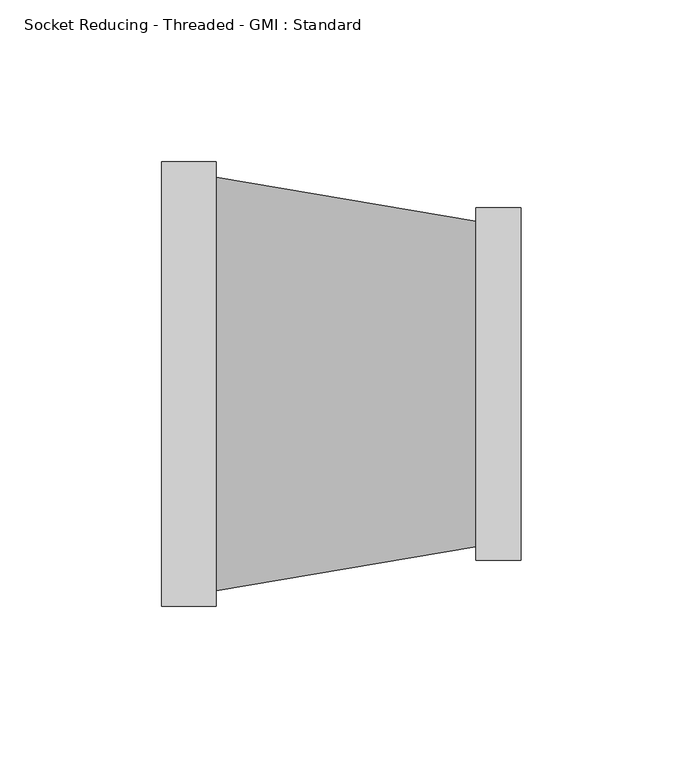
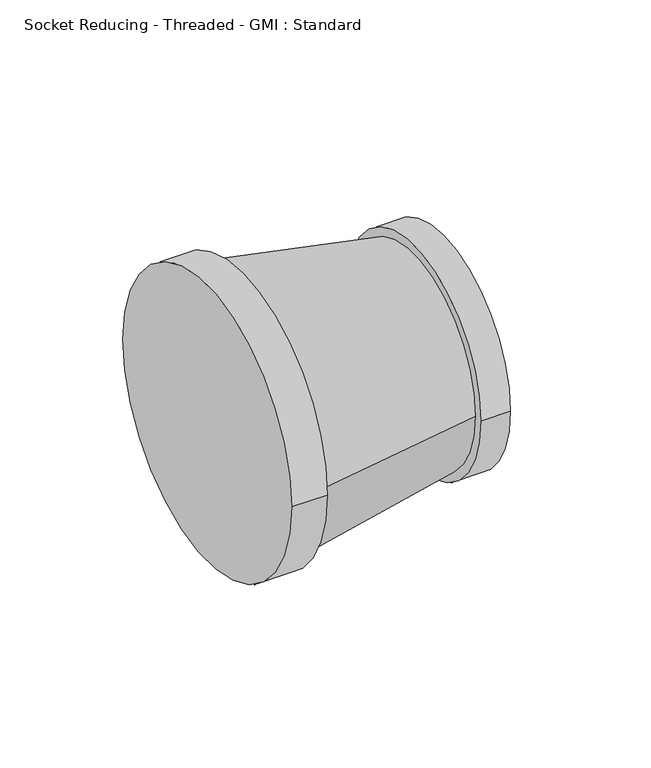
"""IFC4 building model written with IfcOpenShell, lengths in millimetres: pipe fitting geometry, Socket Reducing - Threaded - GMI : Standard."""

from ifc_helpers import new_model, si_unit, point, frame, origin, origin_2d, place, context, project, spatial, polyline, circle_curve, trimmed, segment, composite_curve, outline, extrude, source, transform, mapped, element, save
from ifc_brep_helpers import plane_surface, revolved_surface, advanced_brep


def socket_reducing_threaded_gmi_standard_1a89e3e1(model_context):
    return source(origin(), model_context, "Body", "SolidModel", [
        extrude(outline(composite_curve([segment(trimmed(circle_curve(origin_2d(), 54.4), [point((-54.4, 0.0))], [point((54.4, 0.0))], False, "CARTESIAN"), True, "CONTINUOUS"), segment(trimmed(circle_curve(origin_2d(), 54.4), [point((54.4, 0.0))], [point((-54.4, 0.0))], False, "CARTESIAN"), True, "CONTINUOUS")], self_intersect=False)), frame((97.1, 0.0, 0.0), z_axis=(1.0, 0.0, 0.0), x_axis=(0.0, 1.0, 0.0)), (0.0, 0.0, 1.0), 13.9),
        advanced_brep(
        [(97.1, -50.32, 0.0), (97.1, 50.32, 0.0), (16.8, -63.93, 0.0), (16.8, 63.93, 0.0)],
        [
            (0, 1, circle_curve(frame((97.1, 0.0, 0.0), z_axis=(1.0, 0.0, 0.0), x_axis=(0.0, -1.0, 0.0)), 50.32)),
            (1, 0, circle_curve(frame((97.1, 0.0, 0.0), z_axis=(1.0, 0.0, 0.0), x_axis=(0.0, 1.0, 0.0)), 50.32)),
            (2, 3, circle_curve(frame((16.8, 0.0, 0.0), z_axis=(-1.0, 0.0, 0.0), x_axis=(0.0, 1.0, 0.0)), 63.93)),
            (3, 2, circle_curve(frame((16.8, 0.0, 0.0), z_axis=(-1.0, 0.0, 0.0), x_axis=(0.0, -1.0, 0.0)), 63.93)),
            (3, 1),
            (0, 2),
        ],
        [
            plane_surface(frame((97.1, 0.0, 0.0), z_axis=(1.0, 0.0, 0.0), x_axis=(0.0, 0.0, -1.0))),
            plane_surface(frame((16.8, 0.0, 0.0), z_axis=(-1.0, 0.0, 0.0), x_axis=(0.0, 0.0, -1.0))),
            revolved_surface(polyline([(97.09999999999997, -50.32000000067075, 0.0), (16.80000000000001, -63.93, 0.0)]), (393.9916973, 0.0, 0.0), (-1.0, 0.0, 0.0)),
            revolved_surface(polyline([(97.09999999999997, 50.32000000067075, 0.0), (16.80000000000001, 63.93, 0.0)]), (393.9916973, 0.0, 0.0), (-1.0, 0.0, 0.0)),
        ],
        [
            (0, [[1, 2]]),
            (1, [[3, 4]]),
            (2, [[-4, 5, -1, 6]]),
            (3, [[-3, -6, -2, -5]]),
        ],
    ),
        extrude(outline(composite_curve([segment(trimmed(circle_curve(origin_2d(), 68.6), [point((-68.6, 0.0))], [point((68.6, 0.0))], False, "CARTESIAN"), True, "CONTINUOUS"), segment(trimmed(circle_curve(origin_2d(), 68.6), [point((68.6, 0.0))], [point((-68.6, 0.0))], False, "CARTESIAN"), True, "CONTINUOUS")], self_intersect=False)), frame((0.0, 0.0, 0.0), z_axis=(1.0, 0.0, 0.0), x_axis=(0.0, 1.0, 0.0)), (0.0, 0.0, 1.0), 16.8),
    ])


if __name__ == "__main__":
    model = new_model("IFC4")
    model_context = context("Model", 3, world=origin())
    ifc_project = project(units=[si_unit("LENGTHUNIT", "METRE", prefix="MILLI")], contexts=[model_context])
    site = spatial("IfcSite", under=ifc_project)
    building = spatial("IfcBuilding", under=site)
    placement = place(None, origin())
    socket_reducing_threaded_gmi_standard_shape = socket_reducing_threaded_gmi_standard_1a89e3e1(model_context)
    element("IfcPipeFitting", 1, ObjectType="Socket Reducing - Threaded - GMI : Standard", at=placement, inside=building, context=model_context, shape_type="MappedRepresentation", body=[
        mapped(socket_reducing_threaded_gmi_standard_shape, transform((0.0, 0.0, 0.0), x_axis=(1.0, 0.0, 0.0), y_axis=(0.0, 1.0, 0.0), z_axis=(0.0, 0.0, 1.0))),
    ])
    save(model, "model.ifc")
